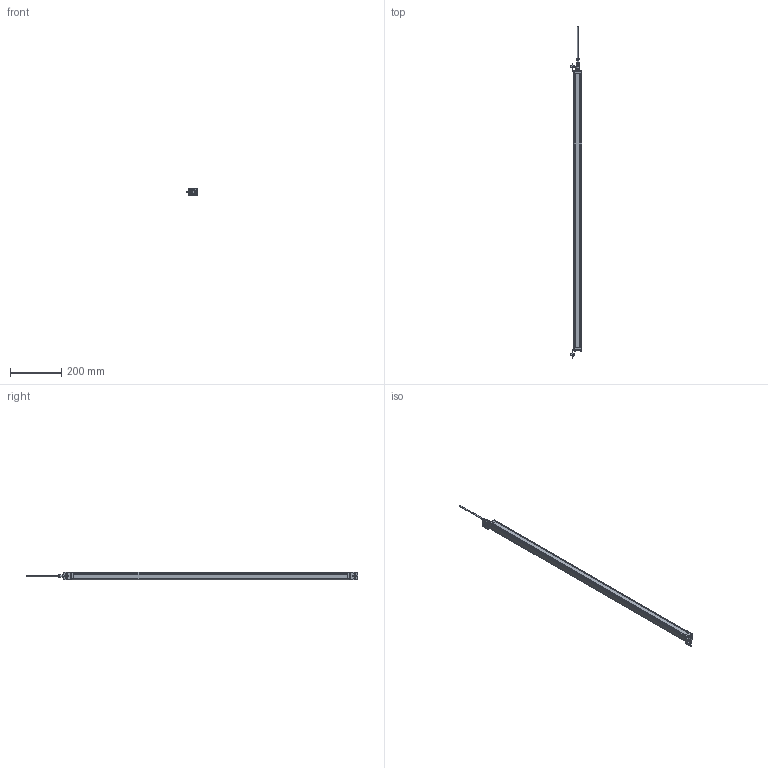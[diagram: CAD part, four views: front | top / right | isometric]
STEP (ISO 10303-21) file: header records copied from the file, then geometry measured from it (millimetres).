
FILE_DESCRIPTION(/* description */ (''),/* implementation_level */ '2;1');
FILE_NAME(/* name */ 'QE54-20-1060_stp.stp',/* time_stamp */ '2023-07-18T20:32:41+08:00',/* author */ (''),/* organization */ (''),/* preprocessor_version */ 'ST-DEVELOPER v14',/* originating_system */ 'SIEMENS PLM Software NX 8.0',/* authorisation */ '');
FILE_SCHEMA (('CONFIG_CONTROL_DESIGN'));
Products named in the file (1): QE50-20-980_stp
Bounding box: 44.2 x 1298.8 x 30 mm (x, y, z)
Volume: 886146.8 mm3; surface area: 195493.9 mm2
Topology: 25 solids, 25 shells, 619 faces, 1571 edges, 1037 vertices
Faces by surface type: plane 335, cylinder 196, bspline 57, cone 22, sphere 5, torus 4
Full cylindrical faces by diameter (mm): 0.7 x2, 1 x5, 2 x5, 2.2 x8, 3.6 x8, 4 x4, 5.5 x12, 6 x2, 7 x2, 8 x1, 9.04 x1, 9.1 x1, 10 x3, 10.8 x1, 11 x2, 11.85 x1, 11.9 x1, 14.5 x1, 15 x2, 15.2 x2
Entity records: 41701 total; most frequent: CARTESIAN_POINT 27535, ORIENTED_EDGE 2832, DIRECTION 2774, EDGE_CURVE 1416, AXIS2_PLACEMENT_3D 1007, VERTEX_POINT 983, EDGE_LOOP 813, LINE 760
